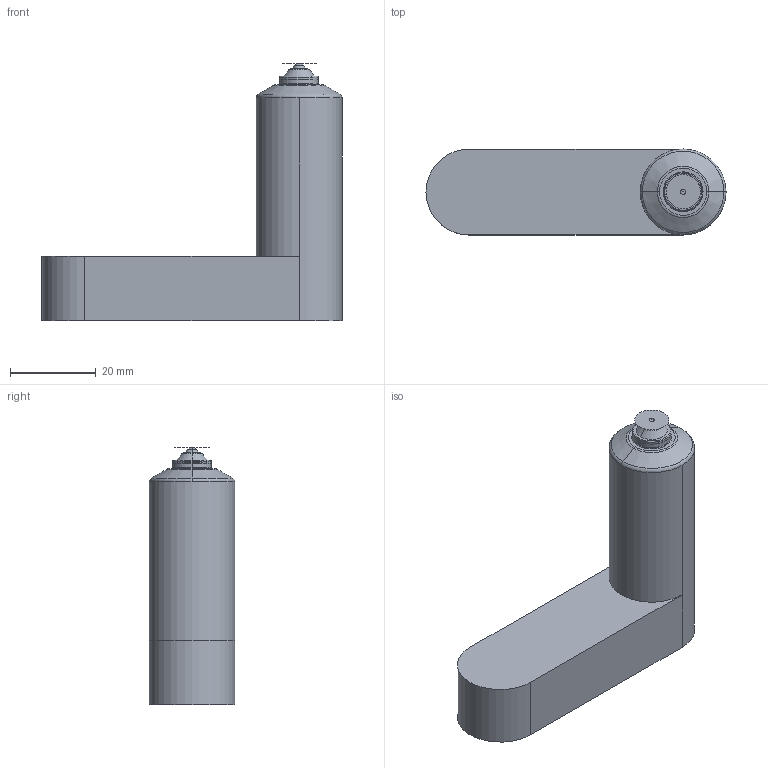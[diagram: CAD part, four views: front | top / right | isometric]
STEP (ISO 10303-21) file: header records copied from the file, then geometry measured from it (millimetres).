
FILE_DESCRIPTION (( 'STEP AP214' ), '1' );
FILE_NAME ('06E-03-060-TTW.STEP', '2023-01-03T08:23:03', ( '' ), ( '' ), 'SwSTEP 2.0', 'SolidWorks 2018', '' );
FILE_SCHEMA (( 'AUTOMOTIVE_DESIGN' ));
Length unit declared in the file: millimetre
Products named in the file (3): cutout_06E-03-060-TTW; nozzle_06E-03-060-TTW; 06E-03-060-TTW
Assembly tree (2 placements, depth 2):
  06E-03-060-TTW
    nozzle_06E-03-060-TTW
    cutout_06E-03-060-TTW
Bounding box: 70 x 20 x 60 mm (x, y, z)
Volume: 32176.4 mm3; surface area: 14374.1 mm2
Topology: 1 solids, 4 shells, 242 faces, 595 edges, 362 vertices
Faces by surface type: cylinder 89, plane 82, cone 30, torus 29, bspline 10, sphere 2
Entity records: 11408 total; most frequent: CARTESIAN_POINT 5520, DIRECTION 1283, ORIENTED_EDGE 1188, EDGE_CURVE 595, AXIS2_PLACEMENT_3D 511, VERTEX_POINT 362, CIRCLE 273, LINE 261
